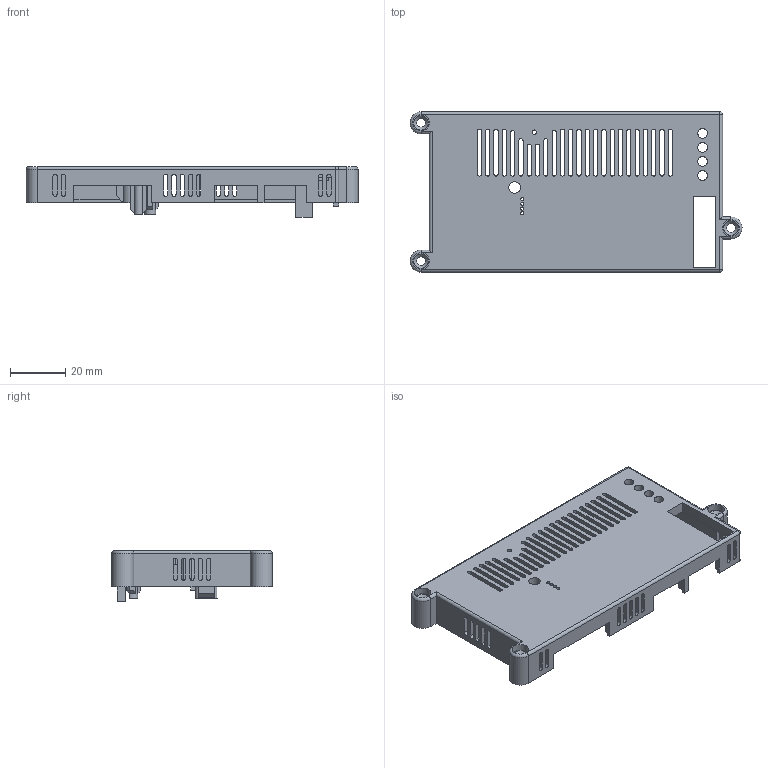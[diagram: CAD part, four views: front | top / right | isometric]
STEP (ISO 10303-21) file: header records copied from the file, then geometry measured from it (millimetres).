
FILE_DESCRIPTION(/* description */ (''),/* implementation_level */ '2;1');
FILE_NAME(/* name */ 'E:\Inventor-Dateien\GBMBoost_Master_XP_AKL_Molex_KK\GBMBoost_Master_XP_AKL_Molex_KK_TOP.stp',/* time_stamp */ '2022-02-07T18:21:57+01:00',/* author */ ('Hans'),/* organization */ (''),/* preprocessor_version */ 'ST-DEVELOPER v16.5',/* originating_system */ 'Autodesk Inventor 2017',/* authorisation */ '');
FILE_SCHEMA (('AUTOMOTIVE_DESIGN { 1 0 10303 214 3 1 1 }'));
Length unit declared in the file: millimetre
Products named in the file (1): GBMBoost_Wago_Molex_DC-DC_TOP
Bounding box: 120 x 58 x 18.4 mm (x, y, z)
Volume: 19108.7 mm3; surface area: 22959.2 mm2
Topology: 1 solids, 1 shells, 836 faces, 2337 edges, 1546 vertices
Faces by surface type: plane 496, bspline 192, cylinder 139, cone 4, torus 3, sphere 2
Full cylindrical faces by diameter (mm): 1.15 x4, 1.6 x1, 3.2 x3, 3.5 x4, 4.2 x1, 6 x4
Entity records: 27796 total; most frequent: CARTESIAN_POINT 7186, ORIENTED_EDGE 4620, DIRECTION 3506, EDGE_CURVE 2310, LINE 1632, VECTOR 1632, VERTEX_POINT 1539, EDGE_LOOP 1029
